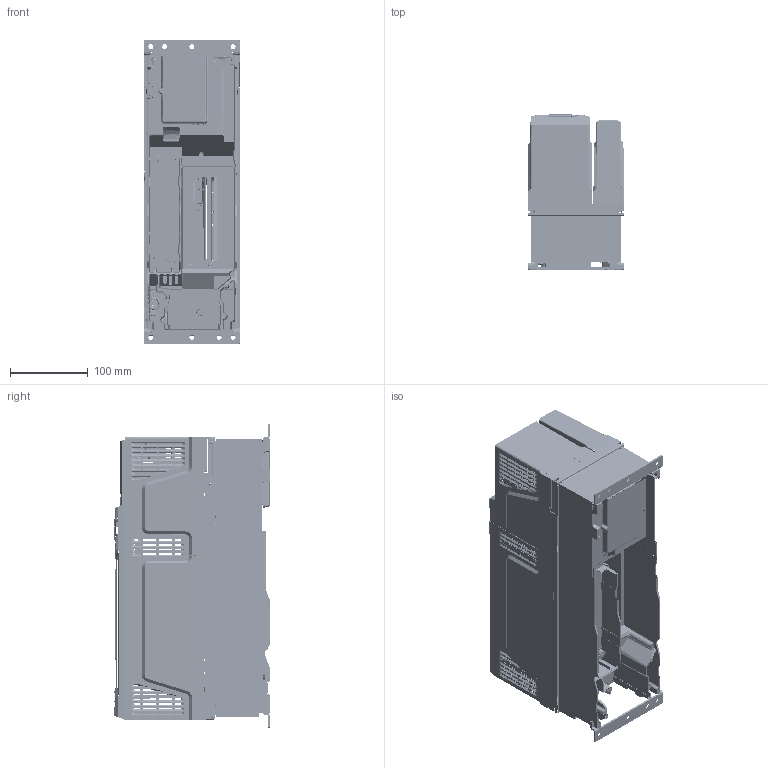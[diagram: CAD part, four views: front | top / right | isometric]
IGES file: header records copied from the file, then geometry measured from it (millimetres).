
Start section:  PTC IGES file: external_gt8-f05.igs
Global section: file name: external_gt8-f05.igs; native system: Pro/ENGINEER by Parametric Technology Corporation; preprocessor: 2011490; author: lewisi02; organization: Unknown; date: 20130902.114228; units: millimetre
Bounding box: 123.78 x 200.1 x 391 mm (x, y, z)
Surface area: 777909.2 mm2 (no closed solid volume)
Topology: 0 solids, 0 shells, 3327 faces, 32935 edges, 32933 vertices
Faces by surface type: bspline 3327
